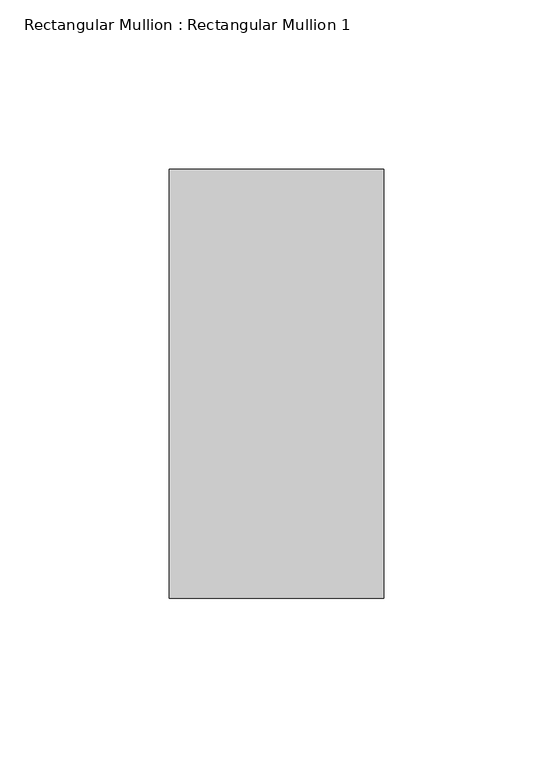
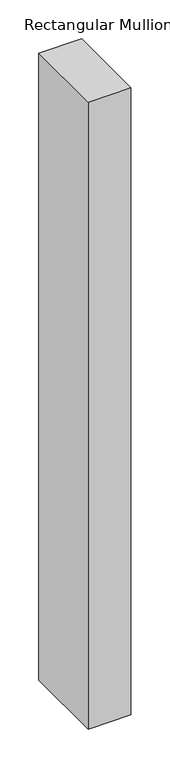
"""IFC4 building model written with IfcOpenShell, lengths in millimetres: member geometry, Rectangular Mullion : Rectangular Mullion 1."""

from ifc_helpers import new_model, si_unit, frame, origin, place, context, project, spatial, polyline, outline, extrude, source, transform, mapped, element, save


def rectangular_mullion_rectangular_mullion_1_3946712a(model_context):
    return source(origin(), model_context, "Body", "SweptSolid", [
        extrude(outline(polyline([(31.75, 63.5), (31.75, -63.5), (-31.75, -63.5), (-31.75, 63.5), (31.75, 63.5)])), frame((0.0, 0.0, -985.1571429), z_axis=(0.0, 0.0, 1.0), x_axis=(1.0, 0.0, 0.0)), (0.0, 0.0, 1.0), 985.1571429),
    ])


if __name__ == "__main__":
    model = new_model("IFC4")
    model_context = context("Model", 3, world=origin())
    ifc_project = project(units=[si_unit("LENGTHUNIT", "METRE", prefix="MILLI")], contexts=[model_context])
    site = spatial("IfcSite", under=ifc_project)
    building = spatial("IfcBuilding", under=site)
    placement = place(None, origin())
    rectangular_mullion_rectangular_mullion_1_shape = rectangular_mullion_rectangular_mullion_1_3946712a(model_context)
    element("IfcMember", 1, ObjectType="Rectangular Mullion : Rectangular Mullion 1", at=placement, inside=building, context=model_context, shape_type="MappedRepresentation", body=[
        mapped(rectangular_mullion_rectangular_mullion_1_shape, transform((0.0, 0.0, 0.0), x_axis=(1.0, 0.0, 0.0), y_axis=(0.0, 1.0, 0.0), z_axis=(0.0, 0.0, 1.0))),
    ])
    save(model, "model.ifc")
